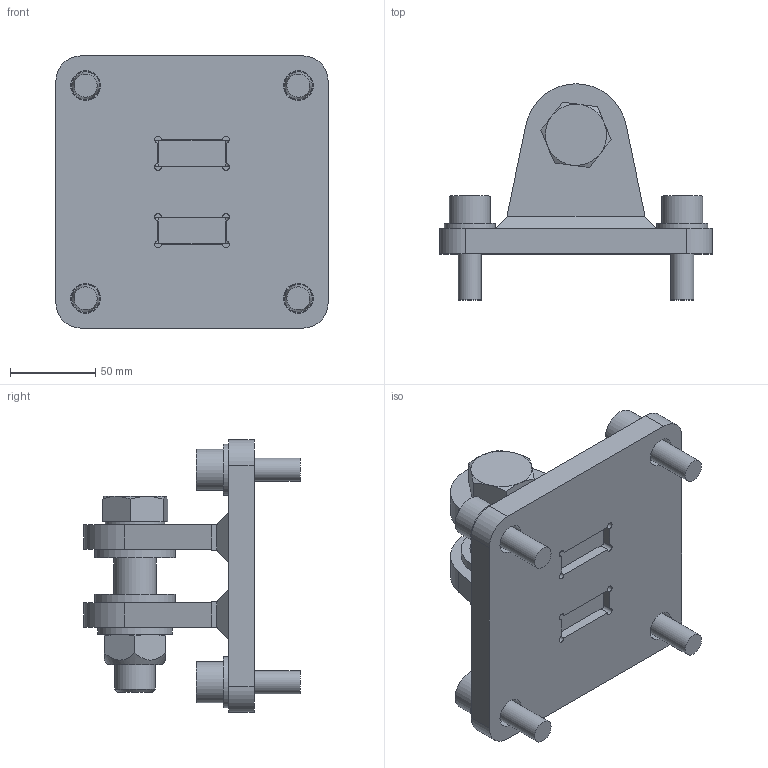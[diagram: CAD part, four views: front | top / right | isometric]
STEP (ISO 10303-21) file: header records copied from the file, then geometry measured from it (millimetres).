
FILE_DESCRIPTION (( 'STEP AP214' ), '1' );
FILE_NAME ('mounting between walls AG_9809-10665330F.STEP', '2024-09-25T08:05:01', ( '' ), ( '' ), 'SwSTEP 2.0', 'SolidWorks 2022', '' );
FILE_SCHEMA (( 'AUTOMOTIVE_DESIGN' ));
Length unit declared in the file: millimetre
Products named in the file (1): mounting between walls AG_9809-10665330F
Bounding box: 160 x 127 x 160 mm (x, y, z)
Volume: 657067.8 mm3; surface area: 154706 mm2
Topology: 19 solids, 19 shells, 219 faces, 471 edges, 296 vertices
Faces by surface type: plane 144, cylinder 56, cone 19
Full cylindrical faces by diameter (mm): 13.546 x4, 16 x4, 17 x4, 17.5 x4, 20.75 x1, 24 x5, 24.2 x1, 25 x5, 30 x4, 35 x1, 37 x2, 44 x1, 47.2 x2
Entity records: 8473 total; most frequent: CARTESIAN_POINT 1188, DIRECTION 958, ORIENTED_EDGE 844, EDGE_CURVE 422, AXIS2_PLACEMENT_3D 346, EDGE_LOOP 308, VERTEX_POINT 292, VECTOR 266
